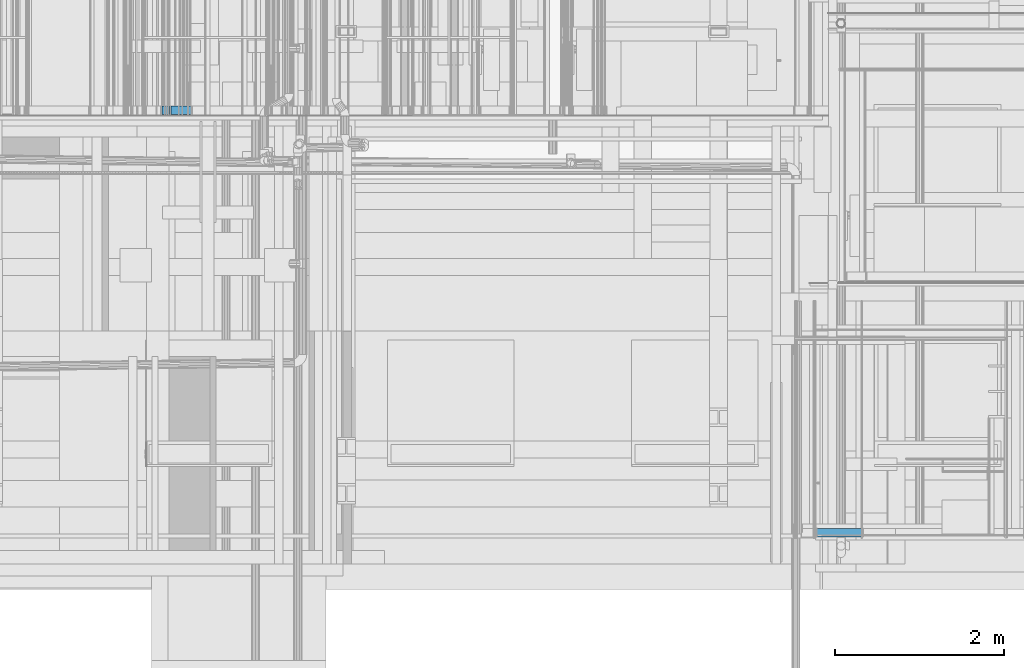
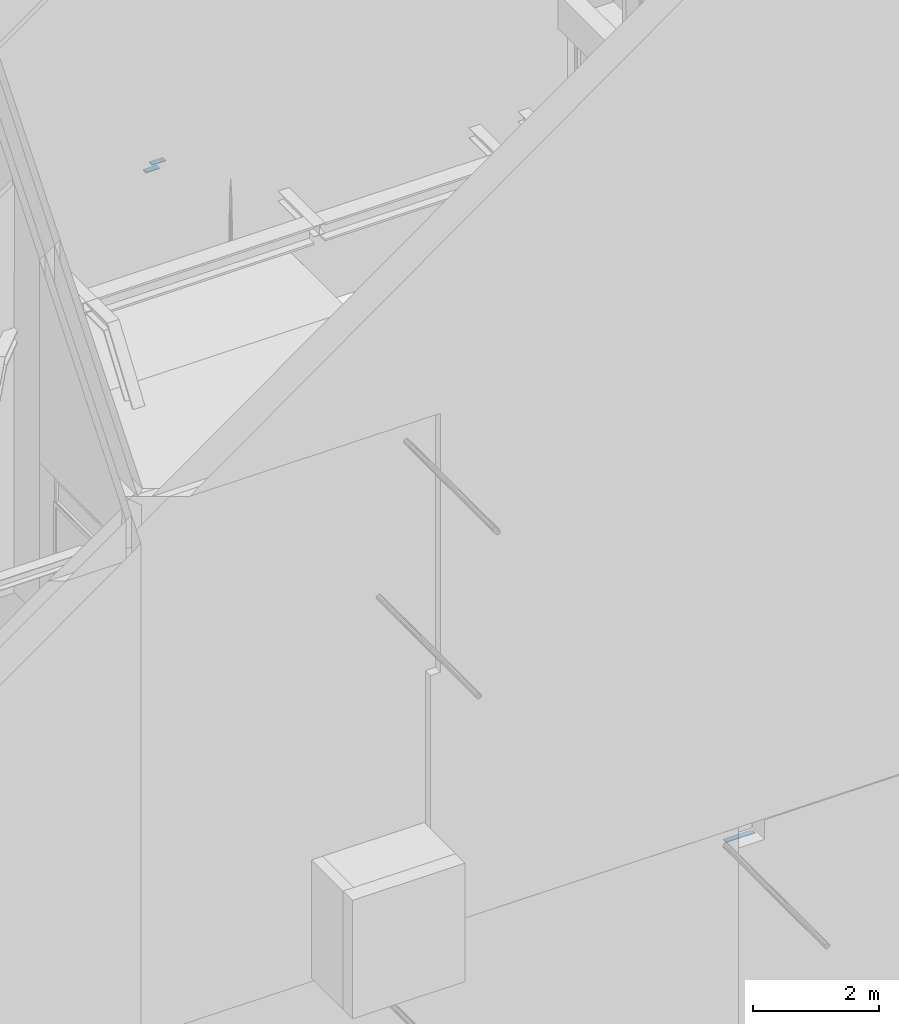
# One storey, part 182 of 583: 3 building element parts, 2 elements without a shape of their own.
"""IFC2X3 building model written with IfcOpenShell, lengths in metres."""

from ifc_helpers import new_model, entity, si_unit, converted_unit, derived_unit, money_unit, direction, frame, origin_with_axes, place, context, subcontext, project, spatial, polyline, outline, extrude, material, type_object, element, aggregate, save


model = new_model("IFC2X3")

# Units and contexts
model_context = context("Model", 3, precision=1e-05, world=origin_with_axes(), true_north=direction((0.0, 1.0)))
body_context = subcontext(model_context, "Body", "Model", "MODEL_VIEW", scale=1.0)
ifc_project = project(units=[si_unit("LENGTHUNIT", "METRE"), si_unit("AREAUNIT", "SQUARE_METRE"), si_unit("VOLUMEUNIT", "CUBIC_METRE"), si_unit("ABSORBEDDOSEUNIT", "GRAY"), si_unit("AMOUNTOFSUBSTANCEUNIT", "MOLE"), si_unit("DOSEEQUIVALENTUNIT", "SIEVERT"), si_unit("ELECTRICCAPACITANCEUNIT", "FARAD"), si_unit("ELECTRICCHARGEUNIT", "COULOMB"), si_unit("ELECTRICCONDUCTANCEUNIT", "SIEMENS"), si_unit("ELECTRICCURRENTUNIT", "AMPERE"), si_unit("ELECTRICRESISTANCEUNIT", "OHM"), si_unit("ELECTRICVOLTAGEUNIT", "VOLT"), si_unit("ENERGYUNIT", "JOULE"), si_unit("FORCEUNIT", "NEWTON"), si_unit("FREQUENCYUNIT", "HERTZ"), si_unit("ILLUMINANCEUNIT", "LUX"), si_unit("INDUCTANCEUNIT", "HENRY"), si_unit("LUMINOUSFLUXUNIT", "LUMEN"), si_unit("LUMINOUSINTENSITYUNIT", "CANDELA"), si_unit("MAGNETICFLUXDENSITYUNIT", "TESLA"), si_unit("MAGNETICFLUXUNIT", "WEBER"), si_unit("MASSUNIT", "GRAM"), converted_unit("PLANEANGLEUNIT", "degree", entity("IfcReal", 0.0174532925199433), si_unit("PLANEANGLEUNIT", "RADIAN"), dimensions=[0, 0, 0, 0, 0, 0, 0]), si_unit("POWERUNIT", "WATT"), si_unit("PRESSUREUNIT", "PASCAL"), si_unit("RADIOACTIVITYUNIT", "BECQUEREL"), si_unit("SOLIDANGLEUNIT", "STERADIAN"), si_unit("THERMODYNAMICTEMPERATUREUNIT", "KELVIN"), si_unit("TIMEUNIT", "SECOND"), derived_unit("ACCELERATIONUNIT", [(si_unit("LENGTHUNIT", "METRE"), 1), (si_unit("TIMEUNIT", "SECOND"), -2)]), derived_unit("ANGULARVELOCITYUNIT", [(converted_unit("PLANEANGLEUNIT", "degree", entity("IfcReal", 0.0174532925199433), si_unit("PLANEANGLEUNIT", "RADIAN"), dimensions=[0, 0, 0, 0, 0, 0, 0]), 1), (si_unit("TIMEUNIT", "SECOND"), -1)]), derived_unit("CURVATUREUNIT", [(converted_unit("PLANEANGLEUNIT", "degree", entity("IfcReal", 0.0174532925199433), si_unit("PLANEANGLEUNIT", "RADIAN"), dimensions=[0, 0, 0, 0, 0, 0, 0]), 1), (si_unit("LENGTHUNIT", "METRE"), -1)]), derived_unit("DYNAMICVISCOSITYUNIT", [(si_unit("PRESSUREUNIT", "PASCAL"), 1), (si_unit("TIMEUNIT", "SECOND"), 1)]), derived_unit("HEATFLUXDENSITYUNIT", [(si_unit("POWERUNIT", "WATT"), 1), (si_unit("LENGTHUNIT", "METRE"), -2)]), derived_unit("HEATINGVALUEUNIT", [(si_unit("ENERGYUNIT", "JOULE"), 1), (si_unit("MASSUNIT", "GRAM"), -1)]), derived_unit("INTEGERCOUNTRATEUNIT", [(si_unit("TIMEUNIT", "SECOND"), -1)]), derived_unit("IONCONCENTRATIONUNIT", [(si_unit("MASSUNIT", "GRAM"), 1), (si_unit("VOLUMEUNIT", "CUBIC_METRE"), -1)]), derived_unit("ISOTHERMALMOISTURECAPACITYUNIT", [(si_unit("VOLUMEUNIT", "CUBIC_METRE"), 1), (si_unit("MASSUNIT", "GRAM"), -1)]), derived_unit("KINEMATICVISCOSITYUNIT", [(si_unit("AREAUNIT", "SQUARE_METRE"), 1), (si_unit("TIMEUNIT", "SECOND"), -1)]), derived_unit("LINEARFORCEUNIT", [(si_unit("FORCEUNIT", "NEWTON"), 1), (si_unit("LENGTHUNIT", "METRE"), -1)]), derived_unit("LINEARMOMENTUNIT", [(si_unit("FORCEUNIT", "NEWTON"), 1), (si_unit("LENGTHUNIT", "METRE"), -1)]), derived_unit("LINEARSTIFFNESSUNIT", [(si_unit("FORCEUNIT", "NEWTON"), 1), (si_unit("LENGTHUNIT", "METRE"), -1)]), derived_unit("LINEARVELOCITYUNIT", [(si_unit("LENGTHUNIT", "METRE"), 1), (si_unit("TIMEUNIT", "SECOND"), -1)]), derived_unit("LUMINOUSINTENSITYDISTRIBUTIONUNIT", [(si_unit("LUMINOUSINTENSITYUNIT", "CANDELA"), 1), (si_unit("LUMINOUSFLUXUNIT", "LUMEN"), -1)]), derived_unit("MASSDENSITYUNIT", [(si_unit("MASSUNIT", "GRAM"), 1), (si_unit("VOLUMEUNIT", "CUBIC_METRE"), -1)]), derived_unit("MASSFLOWRATEUNIT", [(si_unit("MASSUNIT", "GRAM"), 1), (si_unit("TIMEUNIT", "SECOND"), -1)]), derived_unit("MASSPERLENGTHUNIT", [(si_unit("MASSUNIT", "GRAM"), 1), (si_unit("LENGTHUNIT", "METRE"), -1)]), derived_unit("MODULUSOFELASTICITYUNIT", [(si_unit("FORCEUNIT", "NEWTON"), 1), (si_unit("AREAUNIT", "SQUARE_METRE"), -1)]), derived_unit("MODULUSOFLINEARSUBGRADEREACTIONUNIT", [(si_unit("FORCEUNIT", "NEWTON"), 1), (si_unit("LENGTHUNIT", "METRE"), -2)]), derived_unit("MODULUSOFROTATIONALSUBGRADEREACTIONUNIT", [(si_unit("FORCEUNIT", "NEWTON"), 1), (si_unit("LENGTHUNIT", "METRE"), 1)]), derived_unit("MODULUSOFSUBGRADEREACTIONUNIT", [(si_unit("FORCEUNIT", "NEWTON"), 1), (si_unit("VOLUMEUNIT", "CUBIC_METRE"), -1)]), derived_unit("MOISTUREDIFFUSIVITYUNIT", [(si_unit("VOLUMEUNIT", "CUBIC_METRE"), 1), (si_unit("TIMEUNIT", "SECOND"), -1)]), derived_unit("MOLECULARWEIGHTUNIT", [(si_unit("MASSUNIT", "GRAM"), 1), (si_unit("AMOUNTOFSUBSTANCEUNIT", "MOLE"), -1)]), derived_unit("PLANARFORCEUNIT", [(si_unit("FORCEUNIT", "NEWTON"), 1), (si_unit("LENGTHUNIT", "METRE"), -2)]), derived_unit("ROTATIONALFREQUENCYUNIT", [(si_unit("TIMEUNIT", "SECOND"), -1)]), derived_unit("ROTATIONALMASSUNIT", [(si_unit("MASSUNIT", "GRAM"), 1), (si_unit("LENGTHUNIT", "METRE"), 2)]), derived_unit("ROTATIONALSTIFFNESSUNIT", [(si_unit("FORCEUNIT", "NEWTON"), 1), (si_unit("LENGTHUNIT", "METRE"), 1), (converted_unit("PLANEANGLEUNIT", "degree", entity("IfcReal", 0.0174532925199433), si_unit("PLANEANGLEUNIT", "RADIAN"), dimensions=[0, 0, 0, 0, 0, 0, 0]), -1)]), derived_unit("SECTIONAREAINTEGRALUNIT", [(si_unit("LENGTHUNIT", "METRE"), 5)]), derived_unit("SECTIONMODULUSUNIT", [(si_unit("LENGTHUNIT", "METRE"), 3)]), derived_unit("SHEARMODULUSUNIT", [(si_unit("FORCEUNIT", "NEWTON"), 1), (si_unit("AREAUNIT", "SQUARE_METRE"), -1)]), derived_unit("SOUNDPOWERUNIT", [(si_unit("ENERGYUNIT", "JOULE"), 1), (si_unit("TIMEUNIT", "SECOND"), -1)]), derived_unit("SPECIFICHEATCAPACITYUNIT", [(si_unit("FORCEUNIT", "NEWTON"), 1), (si_unit("MASSUNIT", "GRAM"), -1), (si_unit("THERMODYNAMICTEMPERATUREUNIT", "KELVIN"), -1)]), derived_unit("TEMPERATUREGRADIENTUNIT", [(si_unit("THERMODYNAMICTEMPERATUREUNIT", "KELVIN"), 1), (si_unit("LENGTHUNIT", "METRE"), -1)]), derived_unit("THERMALADMITTANCEUNIT", [(si_unit("POWERUNIT", "WATT"), 1), (si_unit("AREAUNIT", "SQUARE_METRE"), -1), (si_unit("THERMODYNAMICTEMPERATUREUNIT", "KELVIN"), -1)]), derived_unit("THERMALCONDUCTANCEUNIT", [(si_unit("POWERUNIT", "WATT"), 1), (si_unit("LENGTHUNIT", "METRE"), -1), (si_unit("THERMODYNAMICTEMPERATUREUNIT", "KELVIN"), -1)]), derived_unit("THERMALEXPANSIONCOEFFICIENTUNIT", [(si_unit("THERMODYNAMICTEMPERATUREUNIT", "KELVIN"), -1)]), derived_unit("THERMALRESISTANCEUNIT", [(si_unit("AREAUNIT", "SQUARE_METRE"), 1), (si_unit("POWERUNIT", "WATT"), -1)]), derived_unit("THERMALTRANSMITTANCEUNIT", [(si_unit("POWERUNIT", "WATT"), 1), (si_unit("AREAUNIT", "SQUARE_METRE"), -1), (si_unit("THERMODYNAMICTEMPERATUREUNIT", "KELVIN"), -1)]), derived_unit("TORQUEUNIT", [(si_unit("FORCEUNIT", "NEWTON"), 1), (si_unit("LENGTHUNIT", "METRE"), 1)]), derived_unit("VAPORPERMEABILITYUNIT", [(si_unit("MASSUNIT", "GRAM"), 1), (si_unit("TIMEUNIT", "SECOND"), -1)]), derived_unit("VOLUMETRICFLOWRATEUNIT", [(si_unit("VOLUMEUNIT", "CUBIC_METRE"), 1), (si_unit("TIMEUNIT", "SECOND"), -1)]), derived_unit("WARPINGCONSTANTUNIT", [(si_unit("LENGTHUNIT", "METRE"), 6)]), derived_unit("WARPINGMOMENTUNIT", [(si_unit("FORCEUNIT", "NEWTON"), 1), (si_unit("LENGTHUNIT", "METRE"), 2)]), money_unit("GBP")], contexts=[model_context])

# Site, building, storey
site_placement = place(None, origin_with_axes())
site = spatial("IfcSite", under=ifc_project, at=site_placement, Name="Site", CompositionType="ELEMENT")
building_placement = place(site_placement, origin_with_axes())
building = spatial("IfcBuilding", under=site, at=building_placement, Name="Building01", CompositionType="ELEMENT")
storey_placement = place(building_placement, frame((0.0, 0.0, 20.78), z_axis=(0.0, 0.0, 1.0), x_axis=(1.0, 0.0, 0.0)))
storey = spatial("IfcBuildingStorey", under=building, at=storey_placement, Name="RL", CompositionType="ELEMENT", Elevation=20.78)

# Wall, building element part
wall_type_1 = type_object("IfcWallType", Name="SHE_A-Walls_Type06c_ExternalWallInsulation_60mm", PredefinedType="NOTDEFINED")
wall_1_placement = place(storey_placement, frame((14.65, 0.148, -12.074709), z_axis=(0.0, 1.0, 0.0), x_axis=(1.0, 0.0, 0.0)))
wall_1 = element("IfcWall", 1, at=wall_1_placement, inside=storey, type_object=wall_type_1, Name="6C", ObjectType="SHE_A-Walls_Type06c_ExternalWallInsulation_60mm")
ifc_material = material(Name="A_BSUK_Walls_Timber")
building_element_part_1_placement = place(wall_1_placement, origin_with_axes())
building_element_part_1 = element("IfcBuildingElementPart", 2, at=building_element_part_1_placement, material=ifc_material, Name="2", context=body_context, shape_type="SweptSolid", body=[
    extrude(outline(polyline([(0.564892, 0.087), (0.015, 0.087), (0.015, 0.072), (0.549892, 0.072), (0.564892, 0.087)])), frame((0.0, 0.0, 0.015), z_axis=(0.0, 0.0, 1.0), x_axis=(1.0, 0.0, 0.0)), (0.0, 0.0, 1.0), 0.1),
])
aggregate(wall_1, [building_element_part_1])

# Wall, building element parts
wall_type_2 = type_object("IfcWallType", Name="SHE_A-Walls_Type05a_Partition_95mm_tall", PredefinedType="NOTDEFINED")
wall_2_placement = place(storey_placement, frame((6.965, 5.15, 0.602661), z_axis=(0.0, 1.0, 0.0), x_axis=(1.0, 0.0, 0.0)))
wall_2 = element("IfcWall", 3, at=wall_2_placement, inside=storey, type_object=wall_type_2, Name="5A", ObjectType="SHE_A-Walls_Type05a_Partition_95mm_tall")
placement = place(wall_2_placement, origin_with_axes())
building_element_part_2 = element("IfcBuildingElementPart", 4, at=placement, material=ifc_material, Name="2", context=body_context, shape_type="SweptSolid", body=[
    extrude(outline(polyline([(0.175, 0.075), (-0.075, 0.075), (-0.06, 0.06), (0.19, 0.06), (0.175, 0.075)])), frame((0.0, 0.0, 0.015), z_axis=(0.0, 0.0, 1.0), x_axis=(1.0, 0.0, 0.0)), (0.0, 0.0, 1.0), 0.1),
])
building_element_part_3 = element("IfcBuildingElementPart", 5, at=placement, material=ifc_material, Name="3", context=body_context, shape_type="SweptSolid", body=[
    extrude(outline(polyline([(0.285, -0.035), (0.035, -0.035), (0.05, -0.05), (0.3, -0.05), (0.285, -0.035)])), frame((0.0, 0.0, 0.015), z_axis=(0.0, 0.0, 1.0), x_axis=(1.0, 0.0, 0.0)), (0.0, 0.0, 1.0), 0.1),
])
aggregate(wall_2, [building_element_part_2, building_element_part_3])

save(model, "model.ifc")
